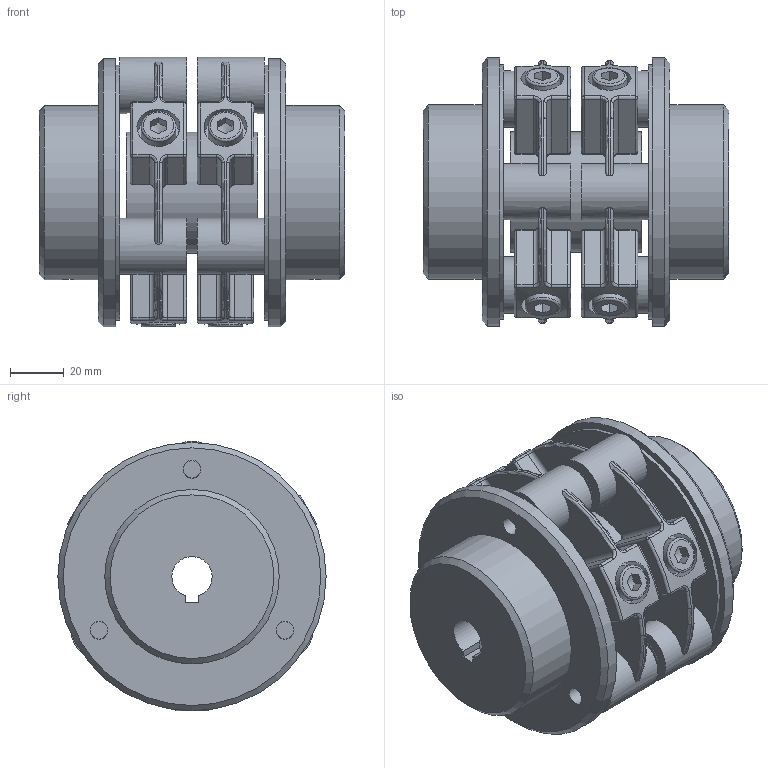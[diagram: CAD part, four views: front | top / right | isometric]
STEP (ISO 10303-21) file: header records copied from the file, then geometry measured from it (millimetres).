
FILE_DESCRIPTION(/* description */ (''),/* implementation_level */ '2;1');
FILE_NAME(/* name */ 'GX04-L54-15-PF-15-PF',/* time_stamp */ '2024-01-05T15:35:09+01:00',/* author */ ('M. Horlacher'),/* organization */ (''),/* preprocessor_version */ 'ST-DEVELOPER v20',/* originating_system */ 'Autodesk Inventor 2024',/* authorisation */ '');
FILE_SCHEMA (('AUTOMOTIVE_DESIGN { 1 0 10303 214 3 1 1 }'));
Length unit declared in the file: millimetre
Products named in the file (9): RP STEP; VE Rohr Dummy; GX04-Nabe; GX04 Befestigungssatz; 080305-1408s; 100305-1451s; ISO 4762 - M8 x 20 - 8.8 - VZ A1A; ISO 4762 - M8 x 25 - 8.8 - VZ A1A; GX04-Nabe_1
Assembly tree (13 placements, depth 3):
  RP STEP
    VE Rohr Dummy
    GX04 Befestigungssatz  x2
      080305-1408s
      100305-1451s
      ISO 4762 - M8 x 20 - 8.8 - VZ A1A
      ISO 4762 - M8 x 25 - 8.8 - VZ A1A
    GX04-Nabe
    GX04-Nabe_1
Bounding box: 114 x 100 x 100.5 mm (x, y, z)
Volume: 439839.6 mm3; surface area: 142030.4 mm2
Topology: 19 solids, 19 shells, 602 faces, 1474 edges, 884 vertices
Faces by surface type: plane 206, cylinder 186, torus 84, sphere 48, bspline 48, cone 30
Full cylindrical faces by diameter (mm): 6.647 x14, 8 x24, 13 x18, 16 x6, 21 x6, 26 x2, 42 x3, 45 x3, 65 x2, 95 x2, 100 x2
Entity records: 9423 total; most frequent: CARTESIAN_POINT 2944, DIRECTION 1325, ORIENTED_EDGE 1246, EDGE_CURVE 623, AXIS2_PLACEMENT_3D 555, VERTEX_POINT 384, EDGE_LOOP 317, CIRCLE 290
